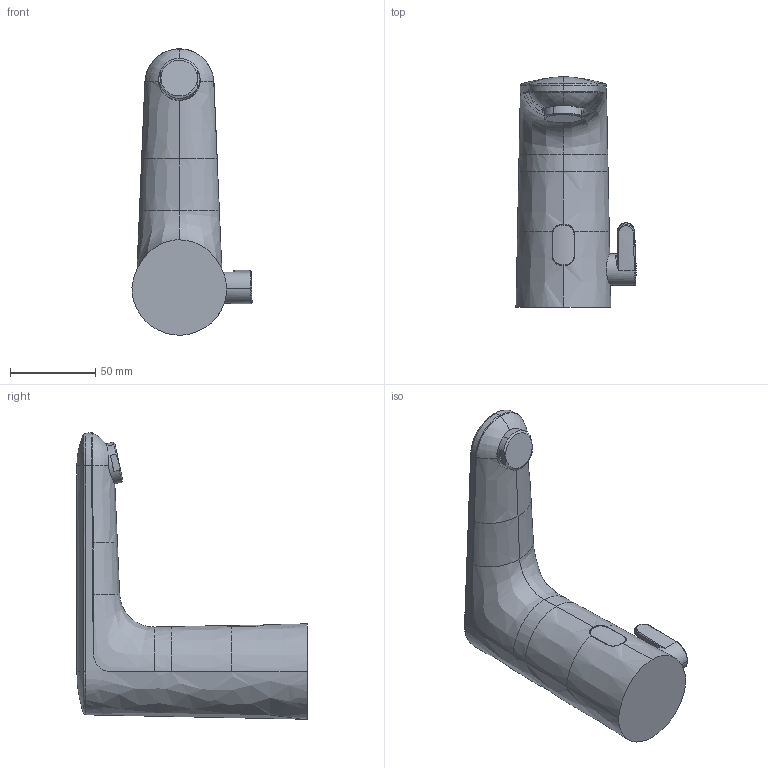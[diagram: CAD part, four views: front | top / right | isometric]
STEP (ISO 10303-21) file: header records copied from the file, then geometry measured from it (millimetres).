
FILE_DESCRIPTION (( 'STEP AP203' ), '1' );
FILE_NAME ('9267FZ(2024).STEP', '2023-11-06T11:52:47', ( '' ), ( '' ), 'SwSTEP 2.0', 'SolidWorks 2016', '' );
FILE_SCHEMA (( 'CONFIG_CONTROL_DESIGN' ));
Length unit declared in the file: millimetre
Products named in the file (1): 9267FZ(2024)
Bounding box: 70.38 x 135 x 167.92 mm (x, y, z)
Volume: 396343 mm3; surface area: 40196 mm2
Topology: 1 solids, 1 shells, 102 faces, 249 edges, 149 vertices
Faces by surface type: bspline 72, plane 17, cylinder 11, cone 2
Entity records: 24090 total; most frequent: CARTESIAN_POINT 22260, ORIENTED_EDGE 494, EDGE_CURVE 247, B_SPLINE_CURVE_WITH_KNOTS 177, VERTEX_POINT 149, DIRECTION 148, EDGE_LOOP 104, ADVANCED_FACE 102
